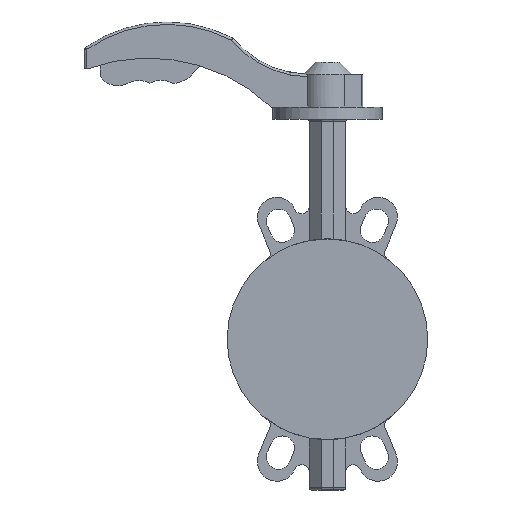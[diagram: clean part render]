
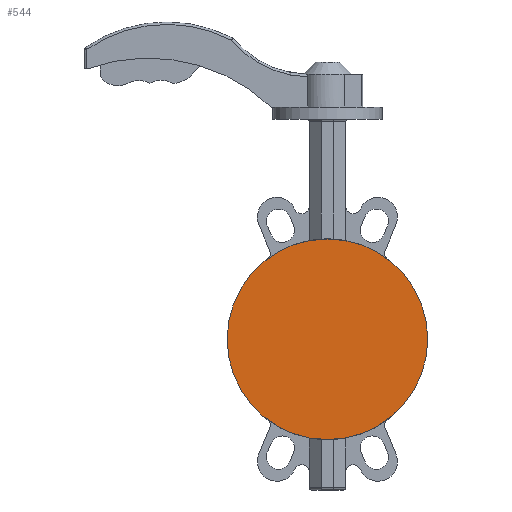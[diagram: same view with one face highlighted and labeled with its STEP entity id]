
A CAD part, left-side view. The second image highlights one B-rep face of the part: STEP entity #544.
In plain terms, the highlighted planar face has unit normal (-1, 0, 0).
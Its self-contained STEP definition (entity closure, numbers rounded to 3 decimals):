
#437=CIRCLE('',#4044,82.5);
#544=ADVANCED_FACE('',(#862),#758,.F.);
#758=PLANE('',#4066);
#862=FACE_OUTER_BOUND('',#1067,.T.);
#1067=EDGE_LOOP('',(#1397));
#1397=ORIENTED_EDGE('',*,*,#2796,.F.);
#2431=VERTEX_POINT('',#5369);
#2796=EDGE_CURVE('',#2431,#2431,#437,.T.);
#4044=AXIS2_PLACEMENT_3D('',#5368,#4377,#4378);
#4066=AXIS2_PLACEMENT_3D('',#5485,#4471,#4472);
#4377=DIRECTION('',(1.,0.,0.));
#4378=DIRECTION('',(0.,1.,0.));
#4471=DIRECTION('',(1.,0.,0.));
#4472=DIRECTION('',(0.,0.,-1.));
#5368=CARTESIAN_POINT('',(-27.5,0.,0.));
#5369=CARTESIAN_POINT('',(-27.5,82.5,0.));
#5485=CARTESIAN_POINT('',(-27.5,0.,0.));
